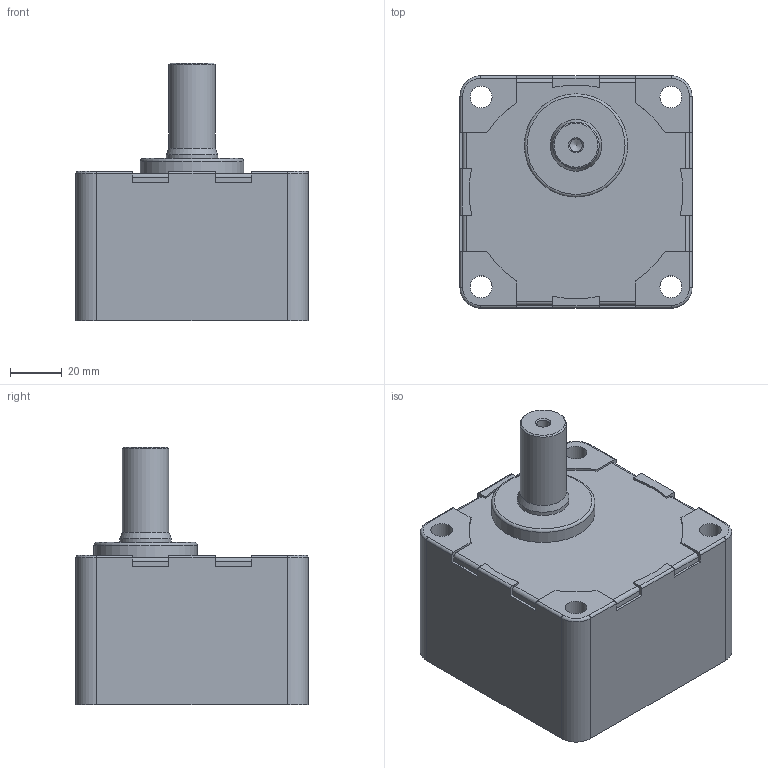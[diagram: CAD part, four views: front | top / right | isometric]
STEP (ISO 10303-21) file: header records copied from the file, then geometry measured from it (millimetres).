
FILE_DESCRIPTION(/* description */ (''),/* implementation_level */ '2;1');
FILE_NAME(/* name */ 'E:\도면작업\2016\0704) 미주향 SG 도면\3D GEAR HEAD\SG9SC18~40.stp',/* time_stamp */ '2016-07-22T14:05:54+09:00',/* author */ ('jy-jung'),/* organization */ (''),/* preprocessor_version */ 'ST-DEVELOPER v15.6',/* originating_system */ 'Autodesk Inventor 2015',/* authorisation */ '');
FILE_SCHEMA (('AUTOMOTIVE_DESIGN { 1 0 10303 214 3 1 1 }'));
Length unit declared in the file: millimetre
Products named in the file (1): SG9SC18~40
Bounding box: 90 x 90 x 100 mm (x, y, z)
Volume: 449088.8 mm3; surface area: 46068.3 mm2
Topology: 1 solids, 1 shells, 102 faces, 273 edges, 177 vertices
Faces by surface type: plane 50, cylinder 41, cone 6, torus 5
Full cylindrical faces by diameter (mm): 4.917 x1, 8.5 x4, 10.5 x1, 18 x1, 20 x1, 40 x1, 83 x1
Entity records: 3125 total; most frequent: DIRECTION 551, CARTESIAN_POINT 532, ORIENTED_EDGE 508, EDGE_CURVE 254, AXIS2_PLACEMENT_3D 194, VERTEX_POINT 175, LINE 163, VECTOR 163
